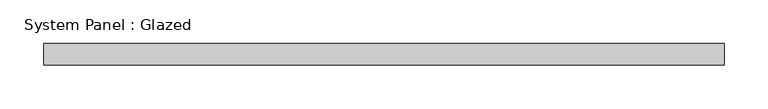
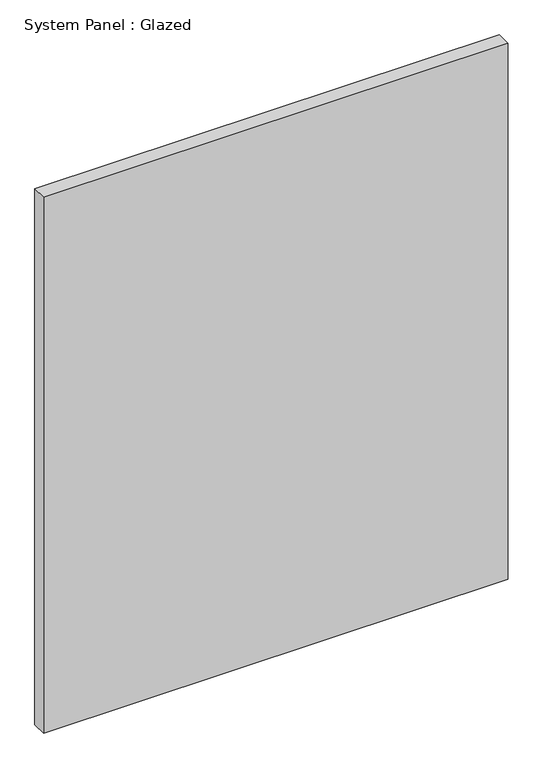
"""IFC4 building model written with IfcOpenShell, lengths in millimetres: plate geometry, System Panel : Glazed."""

from ifc_helpers import new_model, si_unit, origin, origin_with_axes, place, context, project, spatial, polyline, outline, extrude, source, transform, mapped, element, save


def system_panel_glazed_2309bc3e(model_context):
    return source(origin(), model_context, "Body", "SweptSolid", [
        extrude(outline(polyline([(389.9146548, 24.5), (-389.9146548, 24.5), (-389.9146548, 49.5), (389.9146548, 49.5), (389.9146548, 24.5)])), origin_with_axes(), (0.0, 0.0, 1.0), 950.0),
    ])


if __name__ == "__main__":
    model = new_model("IFC4")
    model_context = context("Model", 3, world=origin())
    ifc_project = project(units=[si_unit("LENGTHUNIT", "METRE", prefix="MILLI")], contexts=[model_context])
    site = spatial("IfcSite", under=ifc_project)
    building = spatial("IfcBuilding", under=site)
    placement = place(None, origin())
    system_panel_glazed_shape = system_panel_glazed_2309bc3e(model_context)
    element("IfcPlate", 1, ObjectType="System Panel : Glazed", at=placement, inside=building, context=model_context, shape_type="MappedRepresentation", body=[
        mapped(system_panel_glazed_shape, transform((0.0, 0.0, 0.0), x_axis=(1.0, 0.0, 0.0), y_axis=(0.0, 1.0, 0.0), z_axis=(0.0, 0.0, 1.0))),
    ])
    save(model, "model.ifc")
